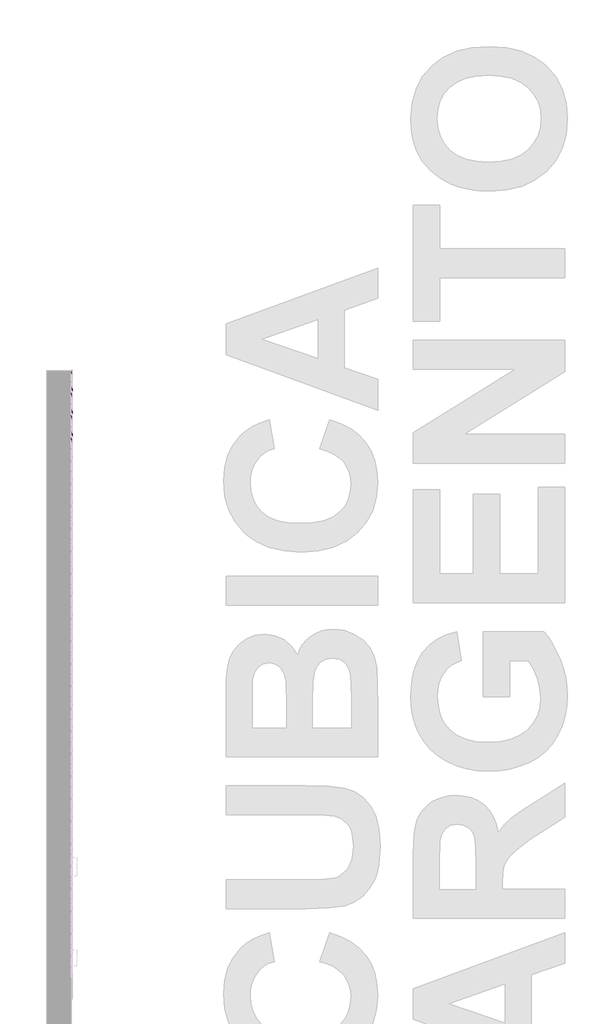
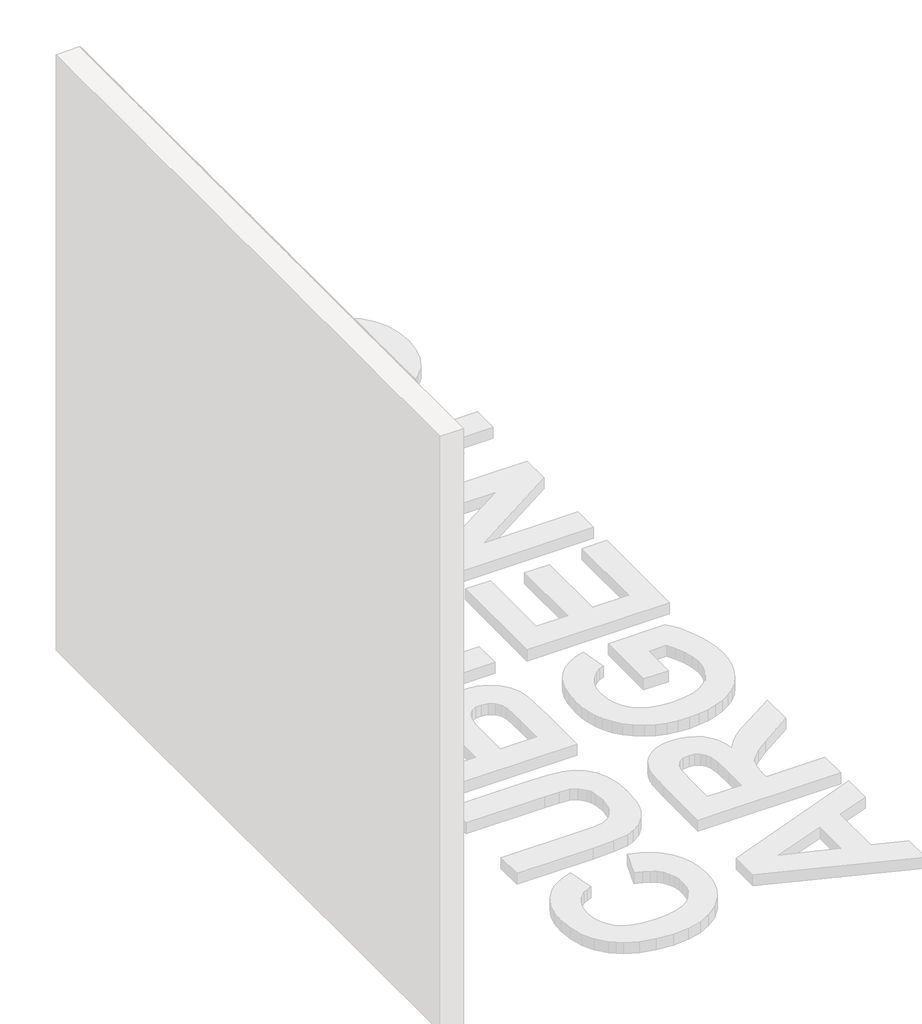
# One storey, part 23 of 121: 143 proxies.
"""IFC4 building model written with IfcOpenShell, lengths in millimetres."""

from ifc_helpers import new_model, si_unit, origin, place, context, project, spatial, transform, mapped, element, save
from components import generic_models_b2b2c5c1, generic_models_9bf73f6f, generic_models_5d175859, generic_models_336a48c1, generic_models_3c04e8e5, generic_models_61989c10, generic_models_7dea52c4

model = new_model("IFC4")

# Units and contexts
model_context = context("Model", 3, world=origin())
ifc_project = project(units=[si_unit("LENGTHUNIT", "METRE", prefix="MILLI")], contexts=[model_context])

# Site, building, storey
site = spatial("IfcSite", under=ifc_project)
building = spatial("IfcBuilding", under=site)
storey = spatial("IfcBuildingStorey", under=building, Name="PORTOBELLO - SHOWROOM", Elevation=0.0)

# Proxies
placement = place(None, origin())
generic_models_shape = generic_models_b2b2c5c1(model_context)
element("IfcBuildingElementProxy", 1, Name="PBSHOP - CUBICA ARGENTO 4,8X8,3 : CUBICA ARGENTO - POSIÇÃO 01", ObjectType="PBSHOP - CUBICA ARGENTO 4,8X8,3 : CUBICA ARGENTO - POSIÇÃO 01", at=placement, inside=storey, context=model_context, shape_type="MappedRepresentation", body=[
    mapped(generic_models_shape, transform((150369.5341846, -3950.7919848, 1302.3763808), x_axis=(0.0, 1.0, 0.0), y_axis=(0.0, 0.0, 1.0), z_axis=(1.0, 0.0, 0.0))),
])
element("IfcBuildingElementProxy", 2, Name="PBSHOP - CUBICA ARGENTO 4,8X8,3 : CUBICA ARGENTO - POSIÇÃO 01", ObjectType="PBSHOP - CUBICA ARGENTO 4,8X8,3 : CUBICA ARGENTO - POSIÇÃO 01", at=placement, inside=storey, context=model_context, shape_type="MappedRepresentation", body=[
    mapped(generic_models_shape, transform((150369.5341846, -3859.9527156, 1302.3763808), x_axis=(0.0, 1.0, 0.0), y_axis=(0.0, 0.0, 1.0), z_axis=(1.0, 0.0, 0.0))),
])
element("IfcBuildingElementProxy", 3, Name="PBSHOP - CUBICA ARGENTO 4,8X8,3 : CUBICA ARGENTO - POSIÇÃO 01", ObjectType="PBSHOP - CUBICA ARGENTO 4,8X8,3 : CUBICA ARGENTO - POSIÇÃO 01", at=placement, inside=storey, context=model_context, shape_type="MappedRepresentation", body=[
    mapped(generic_models_shape, transform((150369.5341846, -3769.1134464, 1302.3763808), x_axis=(0.0, 1.0, 0.0), y_axis=(0.0, 0.0, 1.0), z_axis=(1.0, 0.0, 0.0))),
])
element("IfcBuildingElementProxy", 4, Name="PBSHOP - CUBICA ARGENTO 4,8X8,3 : CUBICA ARGENTO - POSIÇÃO 01", ObjectType="PBSHOP - CUBICA ARGENTO 4,8X8,3 : CUBICA ARGENTO - POSIÇÃO 01", at=placement, inside=storey, context=model_context, shape_type="MappedRepresentation", body=[
    mapped(generic_models_shape, transform((150369.5341846, -3678.2741771, 1302.3763808), x_axis=(0.0, 1.0, 0.0), y_axis=(0.0, 0.0, 1.0), z_axis=(1.0, 0.0, 0.0))),
])
element("IfcBuildingElementProxy", 5, Name="PBSHOP - CUBICA ARGENTO 4,8X8,3 : CUBICA ARGENTO - POSIÇÃO 01", ObjectType="PBSHOP - CUBICA ARGENTO 4,8X8,3 : CUBICA ARGENTO - POSIÇÃO 01", at=placement, inside=storey, context=model_context, shape_type="MappedRepresentation", body=[
    mapped(generic_models_shape, transform((150369.5341846, -3996.2116195, 1381.3110192), x_axis=(0.0, 1.0, 0.0), y_axis=(0.0, 0.0, 1.0), z_axis=(1.0, 0.0, 0.0))),
])
element("IfcBuildingElementProxy", 6, Name="PBSHOP - CUBICA ARGENTO 4,8X8,3 : CUBICA ARGENTO - POSIÇÃO 01", ObjectType="PBSHOP - CUBICA ARGENTO 4,8X8,3 : CUBICA ARGENTO - POSIÇÃO 01", at=placement, inside=storey, context=model_context, shape_type="MappedRepresentation", body=[
    mapped(generic_models_shape, transform((150369.5341846, -3905.3723502, 1381.3110192), x_axis=(0.0, 1.0, 0.0), y_axis=(0.0, 0.0, 1.0), z_axis=(1.0, 0.0, 0.0))),
])
element("IfcBuildingElementProxy", 7, Name="PBSHOP - CUBICA ARGENTO 4,8X8,3 : CUBICA ARGENTO - POSIÇÃO 01", ObjectType="PBSHOP - CUBICA ARGENTO 4,8X8,3 : CUBICA ARGENTO - POSIÇÃO 01", at=placement, inside=storey, context=model_context, shape_type="MappedRepresentation", body=[
    mapped(generic_models_shape, transform((150369.5341846, -3814.533081, 1381.3110192), x_axis=(0.0, 1.0, 0.0), y_axis=(0.0, 0.0, 1.0), z_axis=(1.0, 0.0, 0.0))),
])
element("IfcBuildingElementProxy", 8, Name="PBSHOP - CUBICA ARGENTO 4,8X8,3 : CUBICA ARGENTO - POSIÇÃO 01", ObjectType="PBSHOP - CUBICA ARGENTO 4,8X8,3 : CUBICA ARGENTO - POSIÇÃO 01", at=placement, inside=storey, context=model_context, shape_type="MappedRepresentation", body=[
    mapped(generic_models_shape, transform((150369.5341846, -3723.6938117, 1381.3110192), x_axis=(0.0, 1.0, 0.0), y_axis=(0.0, 0.0, 1.0), z_axis=(1.0, 0.0, 0.0))),
])
element("IfcBuildingElementProxy", 9, Name="PBSHOP - CUBICA ARGENTO 4,8X8,3 : CUBICA ARGENTO - POSIÇÃO 01", ObjectType="PBSHOP - CUBICA ARGENTO 4,8X8,3 : CUBICA ARGENTO - POSIÇÃO 01", at=placement, inside=storey, context=model_context, shape_type="MappedRepresentation", body=[
    mapped(generic_models_shape, transform((150369.5341846, -3632.8545425, 1381.3110192), x_axis=(0.0, 1.0, 0.0), y_axis=(0.0, 0.0, 1.0), z_axis=(1.0, 0.0, 0.0))),
])
element("IfcBuildingElementProxy", 10, Name="PBSHOP - CUBICA ARGENTO 4,8X8,3 : CUBICA ARGENTO - POSIÇÃO 01", ObjectType="PBSHOP - CUBICA ARGENTO 4,8X8,3 : CUBICA ARGENTO - POSIÇÃO 01", at=placement, inside=storey, context=model_context, shape_type="MappedRepresentation", body=[
    mapped(generic_models_shape, transform((150369.5341846, -3950.7919848, 1460.2456575), x_axis=(0.0, 1.0, 0.0), y_axis=(0.0, 0.0, 1.0), z_axis=(1.0, 0.0, 0.0))),
])
element("IfcBuildingElementProxy", 11, Name="PBSHOP - CUBICA ARGENTO 4,8X8,3 : CUBICA ARGENTO - POSIÇÃO 01", ObjectType="PBSHOP - CUBICA ARGENTO 4,8X8,3 : CUBICA ARGENTO - POSIÇÃO 01", at=placement, inside=storey, context=model_context, shape_type="MappedRepresentation", body=[
    mapped(generic_models_shape, transform((150369.5341846, -3859.9527156, 1460.2456575), x_axis=(0.0, 1.0, 0.0), y_axis=(0.0, 0.0, 1.0), z_axis=(1.0, 0.0, 0.0))),
])
element("IfcBuildingElementProxy", 12, Name="PBSHOP - CUBICA ARGENTO 4,8X8,3 : CUBICA ARGENTO - POSIÇÃO 01", ObjectType="PBSHOP - CUBICA ARGENTO 4,8X8,3 : CUBICA ARGENTO - POSIÇÃO 01", at=placement, inside=storey, context=model_context, shape_type="MappedRepresentation", body=[
    mapped(generic_models_shape, transform((150369.5341846, -3769.1134464, 1460.2456575), x_axis=(0.0, 1.0, 0.0), y_axis=(0.0, 0.0, 1.0), z_axis=(1.0, 0.0, 0.0))),
])
element("IfcBuildingElementProxy", 13, Name="PBSHOP - CUBICA ARGENTO 4,8X8,3 : CUBICA ARGENTO - POSIÇÃO 01", ObjectType="PBSHOP - CUBICA ARGENTO 4,8X8,3 : CUBICA ARGENTO - POSIÇÃO 01", at=placement, inside=storey, context=model_context, shape_type="MappedRepresentation", body=[
    mapped(generic_models_shape, transform((150369.5341846, -3678.2741771, 1460.2456575), x_axis=(0.0, 1.0, 0.0), y_axis=(0.0, 0.0, 1.0), z_axis=(1.0, 0.0, 0.0))),
])
element("IfcBuildingElementProxy", 14, Name="PBSHOP - CUBICA ARGENTO 4,8X8,3 : CUBICA ARGENTO - POSIÇÃO 01", ObjectType="PBSHOP - CUBICA ARGENTO 4,8X8,3 : CUBICA ARGENTO - POSIÇÃO 01", at=placement, inside=storey, context=model_context, shape_type="MappedRepresentation", body=[
    mapped(generic_models_shape, transform((150369.5341846, -3996.2116195, 1539.1802959), x_axis=(0.0, 1.0, 0.0), y_axis=(0.0, 0.0, 1.0), z_axis=(1.0, 0.0, 0.0))),
])
element("IfcBuildingElementProxy", 15, Name="PBSHOP - CUBICA ARGENTO 4,8X8,3 : CUBICA ARGENTO - POSIÇÃO 01", ObjectType="PBSHOP - CUBICA ARGENTO 4,8X8,3 : CUBICA ARGENTO - POSIÇÃO 01", at=placement, inside=storey, context=model_context, shape_type="MappedRepresentation", body=[
    mapped(generic_models_shape, transform((150369.5341846, -3905.3723502, 1539.1802959), x_axis=(0.0, 1.0, 0.0), y_axis=(0.0, 0.0, 1.0), z_axis=(1.0, 0.0, 0.0))),
])
element("IfcBuildingElementProxy", 16, Name="PBSHOP - CUBICA ARGENTO 4,8X8,3 : CUBICA ARGENTO - POSIÇÃO 01", ObjectType="PBSHOP - CUBICA ARGENTO 4,8X8,3 : CUBICA ARGENTO - POSIÇÃO 01", at=placement, inside=storey, context=model_context, shape_type="MappedRepresentation", body=[
    mapped(generic_models_shape, transform((150369.5341846, -3814.533081, 1539.1802959), x_axis=(0.0, 1.0, 0.0), y_axis=(0.0, 0.0, 1.0), z_axis=(1.0, 0.0, 0.0))),
])
element("IfcBuildingElementProxy", 17, Name="PBSHOP - CUBICA ARGENTO 4,8X8,3 : CUBICA ARGENTO - POSIÇÃO 01", ObjectType="PBSHOP - CUBICA ARGENTO 4,8X8,3 : CUBICA ARGENTO - POSIÇÃO 01", at=placement, inside=storey, context=model_context, shape_type="MappedRepresentation", body=[
    mapped(generic_models_shape, transform((150369.5341846, -3723.6938117, 1539.1802959), x_axis=(0.0, 1.0, 0.0), y_axis=(0.0, 0.0, 1.0), z_axis=(1.0, 0.0, 0.0))),
])
element("IfcBuildingElementProxy", 18, Name="PBSHOP - CUBICA ARGENTO 4,8X8,3 : CUBICA ARGENTO - POSIÇÃO 01", ObjectType="PBSHOP - CUBICA ARGENTO 4,8X8,3 : CUBICA ARGENTO - POSIÇÃO 01", at=placement, inside=storey, context=model_context, shape_type="MappedRepresentation", body=[
    mapped(generic_models_shape, transform((150369.5341846, -3632.8545425, 1539.1802959), x_axis=(0.0, 1.0, 0.0), y_axis=(0.0, 0.0, 1.0), z_axis=(1.0, 0.0, 0.0))),
])
element("IfcBuildingElementProxy", 19, Name="PBSHOP - CUBICA ARGENTO 4,8X8,3 : CUBICA ARGENTO - POSIÇÃO 01", ObjectType="PBSHOP - CUBICA ARGENTO 4,8X8,3 : CUBICA ARGENTO - POSIÇÃO 01", at=placement, inside=storey, context=model_context, shape_type="MappedRepresentation", body=[
    mapped(generic_models_shape, transform((150369.5341846, -3950.7919848, 1618.1149343), x_axis=(0.0, 1.0, 0.0), y_axis=(0.0, 0.0, 1.0), z_axis=(1.0, 0.0, 0.0))),
])
element("IfcBuildingElementProxy", 20, Name="PBSHOP - CUBICA ARGENTO 4,8X8,3 : CUBICA ARGENTO - POSIÇÃO 01", ObjectType="PBSHOP - CUBICA ARGENTO 4,8X8,3 : CUBICA ARGENTO - POSIÇÃO 01", at=placement, inside=storey, context=model_context, shape_type="MappedRepresentation", body=[
    mapped(generic_models_shape, transform((150369.5341846, -3859.9527156, 1618.1149343), x_axis=(0.0, 1.0, 0.0), y_axis=(0.0, 0.0, 1.0), z_axis=(1.0, 0.0, 0.0))),
])
element("IfcBuildingElementProxy", 21, Name="PBSHOP - CUBICA ARGENTO 4,8X8,3 : CUBICA ARGENTO - POSIÇÃO 01", ObjectType="PBSHOP - CUBICA ARGENTO 4,8X8,3 : CUBICA ARGENTO - POSIÇÃO 01", at=placement, inside=storey, context=model_context, shape_type="MappedRepresentation", body=[
    mapped(generic_models_shape, transform((150369.5341846, -3769.1134464, 1618.1149343), x_axis=(0.0, 1.0, 0.0), y_axis=(0.0, 0.0, 1.0), z_axis=(1.0, 0.0, 0.0))),
])
element("IfcBuildingElementProxy", 22, Name="PBSHOP - CUBICA ARGENTO 4,8X8,3 : CUBICA ARGENTO - POSIÇÃO 01", ObjectType="PBSHOP - CUBICA ARGENTO 4,8X8,3 : CUBICA ARGENTO - POSIÇÃO 01", at=placement, inside=storey, context=model_context, shape_type="MappedRepresentation", body=[
    mapped(generic_models_shape, transform((150369.5341846, -3678.2741771, 1618.1149343), x_axis=(0.0, 1.0, 0.0), y_axis=(0.0, 0.0, 1.0), z_axis=(1.0, 0.0, 0.0))),
])
element("IfcBuildingElementProxy", 23, Name="PBSHOP - CUBICA ARGENTO 4,8X8,3 : CUBICA ARGENTO - POSIÇÃO 01", ObjectType="PBSHOP - CUBICA ARGENTO 4,8X8,3 : CUBICA ARGENTO - POSIÇÃO 01", at=placement, inside=storey, context=model_context, shape_type="MappedRepresentation", body=[
    mapped(generic_models_shape, transform((150369.5341846, -3996.2116195, 1697.0495727), x_axis=(0.0, 1.0, 0.0), y_axis=(0.0, 0.0, 1.0), z_axis=(1.0, 0.0, 0.0))),
])
element("IfcBuildingElementProxy", 24, Name="PBSHOP - CUBICA ARGENTO 4,8X8,3 : CUBICA ARGENTO - POSIÇÃO 01", ObjectType="PBSHOP - CUBICA ARGENTO 4,8X8,3 : CUBICA ARGENTO - POSIÇÃO 01", at=placement, inside=storey, context=model_context, shape_type="MappedRepresentation", body=[
    mapped(generic_models_shape, transform((150369.5341846, -3905.3723502, 1697.0495727), x_axis=(0.0, 1.0, 0.0), y_axis=(0.0, 0.0, 1.0), z_axis=(1.0, 0.0, 0.0))),
])
element("IfcBuildingElementProxy", 25, Name="PBSHOP - CUBICA ARGENTO 4,8X8,3 : CUBICA ARGENTO - POSIÇÃO 01", ObjectType="PBSHOP - CUBICA ARGENTO 4,8X8,3 : CUBICA ARGENTO - POSIÇÃO 01", at=placement, inside=storey, context=model_context, shape_type="MappedRepresentation", body=[
    mapped(generic_models_shape, transform((150369.5341846, -3814.533081, 1697.0495727), x_axis=(0.0, 1.0, 0.0), y_axis=(0.0, 0.0, 1.0), z_axis=(1.0, 0.0, 0.0))),
])
element("IfcBuildingElementProxy", 26, Name="PBSHOP - CUBICA ARGENTO 4,8X8,3 : CUBICA ARGENTO - POSIÇÃO 01", ObjectType="PBSHOP - CUBICA ARGENTO 4,8X8,3 : CUBICA ARGENTO - POSIÇÃO 01", at=placement, inside=storey, context=model_context, shape_type="MappedRepresentation", body=[
    mapped(generic_models_shape, transform((150369.5341846, -3723.6938117, 1697.0495727), x_axis=(0.0, 1.0, 0.0), y_axis=(0.0, 0.0, 1.0), z_axis=(1.0, 0.0, 0.0))),
])
element("IfcBuildingElementProxy", 27, Name="PBSHOP - CUBICA ARGENTO 4,8X8,3 : CUBICA ARGENTO - POSIÇÃO 01", ObjectType="PBSHOP - CUBICA ARGENTO 4,8X8,3 : CUBICA ARGENTO - POSIÇÃO 01", at=placement, inside=storey, context=model_context, shape_type="MappedRepresentation", body=[
    mapped(generic_models_shape, transform((150369.5341846, -3632.8545425, 1697.0495727), x_axis=(0.0, 1.0, 0.0), y_axis=(0.0, 0.0, 1.0), z_axis=(1.0, 0.0, 0.0))),
])
element("IfcBuildingElementProxy", 28, Name="PBSHOP - CUBICA ARGENTO 4,8X8,3 : CUBICA ARGENTO - POSIÇÃO 01", ObjectType="PBSHOP - CUBICA ARGENTO 4,8X8,3 : CUBICA ARGENTO - POSIÇÃO 01", at=placement, inside=storey, context=model_context, shape_type="MappedRepresentation", body=[
    mapped(generic_models_shape, transform((150369.5341846, -3950.7919848, 1775.984211), x_axis=(0.0, 1.0, 0.0), y_axis=(0.0, 0.0, 1.0), z_axis=(1.0, 0.0, 0.0))),
])
element("IfcBuildingElementProxy", 29, Name="PBSHOP - CUBICA ARGENTO 4,8X8,3 : CUBICA ARGENTO - POSIÇÃO 01", ObjectType="PBSHOP - CUBICA ARGENTO 4,8X8,3 : CUBICA ARGENTO - POSIÇÃO 01", at=placement, inside=storey, context=model_context, shape_type="MappedRepresentation", body=[
    mapped(generic_models_shape, transform((150369.5341846, -3859.9527156, 1775.984211), x_axis=(0.0, 1.0, 0.0), y_axis=(0.0, 0.0, 1.0), z_axis=(1.0, 0.0, 0.0))),
])
element("IfcBuildingElementProxy", 30, Name="PBSHOP - CUBICA ARGENTO 4,8X8,3 : CUBICA ARGENTO - POSIÇÃO 01", ObjectType="PBSHOP - CUBICA ARGENTO 4,8X8,3 : CUBICA ARGENTO - POSIÇÃO 01", at=placement, inside=storey, context=model_context, shape_type="MappedRepresentation", body=[
    mapped(generic_models_shape, transform((150369.5341846, -3769.1134464, 1775.984211), x_axis=(0.0, 1.0, 0.0), y_axis=(0.0, 0.0, 1.0), z_axis=(1.0, 0.0, 0.0))),
])
element("IfcBuildingElementProxy", 31, Name="PBSHOP - CUBICA ARGENTO 4,8X8,3 : CUBICA ARGENTO - POSIÇÃO 01", ObjectType="PBSHOP - CUBICA ARGENTO 4,8X8,3 : CUBICA ARGENTO - POSIÇÃO 01", at=placement, inside=storey, context=model_context, shape_type="MappedRepresentation", body=[
    mapped(generic_models_shape, transform((150369.5341846, -3678.2741771, 1775.984211), x_axis=(0.0, 1.0, 0.0), y_axis=(0.0, 0.0, 1.0), z_axis=(1.0, 0.0, 0.0))),
])
element("IfcBuildingElementProxy", 32, Name="PBSHOP - CUBICA ARGENTO 4,8X8,3 : CUBICA ARGENTO - POSIÇÃO 01", ObjectType="PBSHOP - CUBICA ARGENTO 4,8X8,3 : CUBICA ARGENTO - POSIÇÃO 01", at=placement, inside=storey, context=model_context, shape_type="MappedRepresentation", body=[
    mapped(generic_models_shape, transform((150369.5341846, -3996.2116195, 1854.9188494), x_axis=(0.0, 1.0, 0.0), y_axis=(0.0, 0.0, 1.0), z_axis=(1.0, 0.0, 0.0))),
])
element("IfcBuildingElementProxy", 33, Name="PBSHOP - CUBICA ARGENTO 4,8X8,3 : CUBICA ARGENTO - POSIÇÃO 01", ObjectType="PBSHOP - CUBICA ARGENTO 4,8X8,3 : CUBICA ARGENTO - POSIÇÃO 01", at=placement, inside=storey, context=model_context, shape_type="MappedRepresentation", body=[
    mapped(generic_models_shape, transform((150369.5341846, -3905.3723502, 1854.9188494), x_axis=(0.0, 1.0, 0.0), y_axis=(0.0, 0.0, 1.0), z_axis=(1.0, 0.0, 0.0))),
])
element("IfcBuildingElementProxy", 34, Name="PBSHOP - CUBICA ARGENTO 4,8X8,3 : CUBICA ARGENTO - POSIÇÃO 01", ObjectType="PBSHOP - CUBICA ARGENTO 4,8X8,3 : CUBICA ARGENTO - POSIÇÃO 01", at=placement, inside=storey, context=model_context, shape_type="MappedRepresentation", body=[
    mapped(generic_models_shape, transform((150369.5341846, -3814.533081, 1854.9188494), x_axis=(0.0, 1.0, 0.0), y_axis=(0.0, 0.0, 1.0), z_axis=(1.0, 0.0, 0.0))),
])
element("IfcBuildingElementProxy", 35, Name="PBSHOP - CUBICA ARGENTO 4,8X8,3 : CUBICA ARGENTO - POSIÇÃO 01", ObjectType="PBSHOP - CUBICA ARGENTO 4,8X8,3 : CUBICA ARGENTO - POSIÇÃO 01", at=placement, inside=storey, context=model_context, shape_type="MappedRepresentation", body=[
    mapped(generic_models_shape, transform((150369.5341846, -3723.6938117, 1854.9188494), x_axis=(0.0, 1.0, 0.0), y_axis=(0.0, 0.0, 1.0), z_axis=(1.0, 0.0, 0.0))),
])
element("IfcBuildingElementProxy", 36, Name="PBSHOP - CUBICA ARGENTO 4,8X8,3 : CUBICA ARGENTO - POSIÇÃO 01", ObjectType="PBSHOP - CUBICA ARGENTO 4,8X8,3 : CUBICA ARGENTO - POSIÇÃO 01", at=placement, inside=storey, context=model_context, shape_type="MappedRepresentation", body=[
    mapped(generic_models_shape, transform((150369.5341846, -3632.8545425, 1854.9188494), x_axis=(0.0, 1.0, 0.0), y_axis=(0.0, 0.0, 1.0), z_axis=(1.0, 0.0, 0.0))),
])
element("IfcBuildingElementProxy", 37, Name="PBSHOP - CUBICA ARGENTO 4,8X8,3 : CUBICA ARGENTO - POSIÇÃO 01", ObjectType="PBSHOP - CUBICA ARGENTO 4,8X8,3 : CUBICA ARGENTO - POSIÇÃO 01", at=placement, inside=storey, context=model_context, shape_type="MappedRepresentation", body=[
    mapped(generic_models_shape, transform((150369.5341846, -3950.7919848, 1933.8534878), x_axis=(0.0, 1.0, 0.0), y_axis=(0.0, 0.0, 1.0), z_axis=(1.0, 0.0, 0.0))),
])
element("IfcBuildingElementProxy", 38, Name="PBSHOP - CUBICA ARGENTO 4,8X8,3 : CUBICA ARGENTO - POSIÇÃO 01", ObjectType="PBSHOP - CUBICA ARGENTO 4,8X8,3 : CUBICA ARGENTO - POSIÇÃO 01", at=placement, inside=storey, context=model_context, shape_type="MappedRepresentation", body=[
    mapped(generic_models_shape, transform((150369.5341846, -3859.9527156, 1933.8534878), x_axis=(0.0, 1.0, 0.0), y_axis=(0.0, 0.0, 1.0), z_axis=(1.0, 0.0, 0.0))),
])
element("IfcBuildingElementProxy", 39, Name="PBSHOP - CUBICA ARGENTO 4,8X8,3 : CUBICA ARGENTO - POSIÇÃO 01", ObjectType="PBSHOP - CUBICA ARGENTO 4,8X8,3 : CUBICA ARGENTO - POSIÇÃO 01", at=placement, inside=storey, context=model_context, shape_type="MappedRepresentation", body=[
    mapped(generic_models_shape, transform((150369.5341846, -3769.1134464, 1933.8534878), x_axis=(0.0, 1.0, 0.0), y_axis=(0.0, 0.0, 1.0), z_axis=(1.0, 0.0, 0.0))),
])
element("IfcBuildingElementProxy", 40, Name="PBSHOP - CUBICA ARGENTO 4,8X8,3 : CUBICA ARGENTO - POSIÇÃO 01", ObjectType="PBSHOP - CUBICA ARGENTO 4,8X8,3 : CUBICA ARGENTO - POSIÇÃO 01", at=placement, inside=storey, context=model_context, shape_type="MappedRepresentation", body=[
    mapped(generic_models_shape, transform((150369.5341846, -3678.2741771, 1933.8534878), x_axis=(0.0, 1.0, 0.0), y_axis=(0.0, 0.0, 1.0), z_axis=(1.0, 0.0, 0.0))),
])
element("IfcBuildingElementProxy", 41, Name="PBSHOP - CUBICA ARGENTO 4,8X8,3 : CUBICA ARGENTO - POSIÇÃO 01", ObjectType="PBSHOP - CUBICA ARGENTO 4,8X8,3 : CUBICA ARGENTO - POSIÇÃO 01", at=placement, inside=storey, context=model_context, shape_type="MappedRepresentation", body=[
    mapped(generic_models_shape, transform((150369.5341846, -3996.2116195, 2012.7881262), x_axis=(0.0, 1.0, 0.0), y_axis=(0.0, 0.0, 1.0), z_axis=(1.0, 0.0, 0.0))),
])
element("IfcBuildingElementProxy", 42, Name="PBSHOP - CUBICA ARGENTO 4,8X8,3 : CUBICA ARGENTO - POSIÇÃO 01", ObjectType="PBSHOP - CUBICA ARGENTO 4,8X8,3 : CUBICA ARGENTO - POSIÇÃO 01", at=placement, inside=storey, context=model_context, shape_type="MappedRepresentation", body=[
    mapped(generic_models_shape, transform((150369.5341846, -3905.3723502, 2012.7881262), x_axis=(0.0, 1.0, 0.0), y_axis=(0.0, 0.0, 1.0), z_axis=(1.0, 0.0, 0.0))),
])
generic_models_2_shape = generic_models_9bf73f6f(model_context)
element("IfcBuildingElementProxy", 43, Name="PBSHOP - CUBICA ARGENTO 4,8X8,3 : CUBICA ARGENTO - POSIÇÃO 03", ObjectType="PBSHOP - CUBICA ARGENTO 4,8X8,3 : CUBICA ARGENTO - POSIÇÃO 03", at=placement, inside=storey, context=model_context, shape_type="MappedRepresentation", body=[
    mapped(generic_models_2_shape, transform((150369.5341846, -3837.2407391, 1183.9332128), x_axis=(0.0, 1.0, 0.0), y_axis=(0.0, 0.0, 1.0), z_axis=(1.0, 0.0, 0.0))),
])
element("IfcBuildingElementProxy", 44, Name="PBSHOP - CUBICA ARGENTO 4,8X8,3 : CUBICA ARGENTO - POSIÇÃO 03", ObjectType="PBSHOP - CUBICA ARGENTO 4,8X8,3 : CUBICA ARGENTO - POSIÇÃO 03", at=placement, inside=storey, context=model_context, shape_type="MappedRepresentation", body=[
    mapped(generic_models_2_shape, transform((150369.5341846, -3746.4014699, 1183.9332128), x_axis=(0.0, 1.0, 0.0), y_axis=(0.0, 0.0, 1.0), z_axis=(1.0, 0.0, 0.0))),
])
element("IfcBuildingElementProxy", 45, Name="PBSHOP - CUBICA ARGENTO 4,8X8,3 : CUBICA ARGENTO - POSIÇÃO 03", ObjectType="PBSHOP - CUBICA ARGENTO 4,8X8,3 : CUBICA ARGENTO - POSIÇÃO 03", at=placement, inside=storey, context=model_context, shape_type="MappedRepresentation", body=[
    mapped(generic_models_2_shape, transform((150369.5341846, -3655.5622006, 1183.9332128), x_axis=(0.0, 1.0, 0.0), y_axis=(0.0, 0.0, 1.0), z_axis=(1.0, 0.0, 0.0))),
])
element("IfcBuildingElementProxy", 46, Name="PBSHOP - CUBICA ARGENTO 4,8X8,3 : CUBICA ARGENTO - POSIÇÃO 03", ObjectType="PBSHOP - CUBICA ARGENTO 4,8X8,3 : CUBICA ARGENTO - POSIÇÃO 03", at=placement, inside=storey, context=model_context, shape_type="MappedRepresentation", body=[
    mapped(generic_models_2_shape, transform((150369.5341846, -3973.499643, 1262.8678512), x_axis=(0.0, 1.0, 0.0), y_axis=(0.0, 0.0, 1.0), z_axis=(1.0, 0.0, 0.0))),
])
element("IfcBuildingElementProxy", 47, Name="PBSHOP - CUBICA ARGENTO 4,8X8,3 : CUBICA ARGENTO - POSIÇÃO 03", ObjectType="PBSHOP - CUBICA ARGENTO 4,8X8,3 : CUBICA ARGENTO - POSIÇÃO 03", at=placement, inside=storey, context=model_context, shape_type="MappedRepresentation", body=[
    mapped(generic_models_2_shape, transform((150369.5341846, -3882.6603737, 1262.8678512), x_axis=(0.0, 1.0, 0.0), y_axis=(0.0, 0.0, 1.0), z_axis=(1.0, 0.0, 0.0))),
])
element("IfcBuildingElementProxy", 48, Name="PBSHOP - CUBICA ARGENTO 4,8X8,3 : CUBICA ARGENTO - POSIÇÃO 03", ObjectType="PBSHOP - CUBICA ARGENTO 4,8X8,3 : CUBICA ARGENTO - POSIÇÃO 03", at=placement, inside=storey, context=model_context, shape_type="MappedRepresentation", body=[
    mapped(generic_models_2_shape, transform((150369.5341846, -3791.8211045, 1262.8678512), x_axis=(0.0, 1.0, 0.0), y_axis=(0.0, 0.0, 1.0), z_axis=(1.0, 0.0, 0.0))),
])
element("IfcBuildingElementProxy", 49, Name="PBSHOP - CUBICA ARGENTO 4,8X8,3 : CUBICA ARGENTO - POSIÇÃO 03", ObjectType="PBSHOP - CUBICA ARGENTO 4,8X8,3 : CUBICA ARGENTO - POSIÇÃO 03", at=placement, inside=storey, context=model_context, shape_type="MappedRepresentation", body=[
    mapped(generic_models_2_shape, transform((150369.5341846, -3700.9818353, 1262.8678512), x_axis=(0.0, 1.0, 0.0), y_axis=(0.0, 0.0, 1.0), z_axis=(1.0, 0.0, 0.0))),
])
element("IfcBuildingElementProxy", 50, Name="PBSHOP - CUBICA ARGENTO 4,8X8,3 : CUBICA ARGENTO - POSIÇÃO 03", ObjectType="PBSHOP - CUBICA ARGENTO 4,8X8,3 : CUBICA ARGENTO - POSIÇÃO 03", at=placement, inside=storey, context=model_context, shape_type="MappedRepresentation", body=[
    mapped(generic_models_2_shape, transform((150369.5341846, -3928.0800084, 1341.8024896), x_axis=(0.0, 1.0, 0.0), y_axis=(0.0, 0.0, 1.0), z_axis=(1.0, 0.0, 0.0))),
])
element("IfcBuildingElementProxy", 51, Name="PBSHOP - CUBICA ARGENTO 4,8X8,3 : CUBICA ARGENTO - POSIÇÃO 03", ObjectType="PBSHOP - CUBICA ARGENTO 4,8X8,3 : CUBICA ARGENTO - POSIÇÃO 03", at=placement, inside=storey, context=model_context, shape_type="MappedRepresentation", body=[
    mapped(generic_models_2_shape, transform((150369.5341846, -3837.2407391, 1341.8024896), x_axis=(0.0, 1.0, 0.0), y_axis=(0.0, 0.0, 1.0), z_axis=(1.0, 0.0, 0.0))),
])
element("IfcBuildingElementProxy", 52, Name="PBSHOP - CUBICA ARGENTO 4,8X8,3 : CUBICA ARGENTO - POSIÇÃO 03", ObjectType="PBSHOP - CUBICA ARGENTO 4,8X8,3 : CUBICA ARGENTO - POSIÇÃO 03", at=placement, inside=storey, context=model_context, shape_type="MappedRepresentation", body=[
    mapped(generic_models_2_shape, transform((150369.5341846, -3746.4014699, 1341.8024896), x_axis=(0.0, 1.0, 0.0), y_axis=(0.0, 0.0, 1.0), z_axis=(1.0, 0.0, 0.0))),
])
element("IfcBuildingElementProxy", 53, Name="PBSHOP - CUBICA ARGENTO 4,8X8,3 : CUBICA ARGENTO - POSIÇÃO 03", ObjectType="PBSHOP - CUBICA ARGENTO 4,8X8,3 : CUBICA ARGENTO - POSIÇÃO 03", at=placement, inside=storey, context=model_context, shape_type="MappedRepresentation", body=[
    mapped(generic_models_2_shape, transform((150369.5341846, -3655.5622006, 1341.8024896), x_axis=(0.0, 1.0, 0.0), y_axis=(0.0, 0.0, 1.0), z_axis=(1.0, 0.0, 0.0))),
])
element("IfcBuildingElementProxy", 54, Name="PBSHOP - CUBICA ARGENTO 4,8X8,3 : CUBICA ARGENTO - POSIÇÃO 03", ObjectType="PBSHOP - CUBICA ARGENTO 4,8X8,3 : CUBICA ARGENTO - POSIÇÃO 03", at=placement, inside=storey, context=model_context, shape_type="MappedRepresentation", body=[
    mapped(generic_models_2_shape, transform((150369.5341846, -3973.499643, 1420.7371279), x_axis=(0.0, 1.0, 0.0), y_axis=(0.0, 0.0, 1.0), z_axis=(1.0, 0.0, 0.0))),
])
element("IfcBuildingElementProxy", 55, Name="PBSHOP - CUBICA ARGENTO 4,8X8,3 : CUBICA ARGENTO - POSIÇÃO 03", ObjectType="PBSHOP - CUBICA ARGENTO 4,8X8,3 : CUBICA ARGENTO - POSIÇÃO 03", at=placement, inside=storey, context=model_context, shape_type="MappedRepresentation", body=[
    mapped(generic_models_2_shape, transform((150369.5341846, -3882.6603737, 1420.7371279), x_axis=(0.0, 1.0, 0.0), y_axis=(0.0, 0.0, 1.0), z_axis=(1.0, 0.0, 0.0))),
])
element("IfcBuildingElementProxy", 56, Name="PBSHOP - CUBICA ARGENTO 4,8X8,3 : CUBICA ARGENTO - POSIÇÃO 03", ObjectType="PBSHOP - CUBICA ARGENTO 4,8X8,3 : CUBICA ARGENTO - POSIÇÃO 03", at=placement, inside=storey, context=model_context, shape_type="MappedRepresentation", body=[
    mapped(generic_models_2_shape, transform((150369.5341846, -3791.8211045, 1420.7371279), x_axis=(0.0, 1.0, 0.0), y_axis=(0.0, 0.0, 1.0), z_axis=(1.0, 0.0, 0.0))),
])
element("IfcBuildingElementProxy", 57, Name="PBSHOP - CUBICA ARGENTO 4,8X8,3 : CUBICA ARGENTO - POSIÇÃO 03", ObjectType="PBSHOP - CUBICA ARGENTO 4,8X8,3 : CUBICA ARGENTO - POSIÇÃO 03", at=placement, inside=storey, context=model_context, shape_type="MappedRepresentation", body=[
    mapped(generic_models_2_shape, transform((150369.5341846, -3700.9818353, 1420.7371279), x_axis=(0.0, 1.0, 0.0), y_axis=(0.0, 0.0, 1.0), z_axis=(1.0, 0.0, 0.0))),
])
element("IfcBuildingElementProxy", 58, Name="PBSHOP - CUBICA ARGENTO 4,8X8,3 : CUBICA ARGENTO - POSIÇÃO 03", ObjectType="PBSHOP - CUBICA ARGENTO 4,8X8,3 : CUBICA ARGENTO - POSIÇÃO 03", at=placement, inside=storey, context=model_context, shape_type="MappedRepresentation", body=[
    mapped(generic_models_2_shape, transform((150369.5341846, -3928.0800084, 1499.6717663), x_axis=(0.0, 1.0, 0.0), y_axis=(0.0, 0.0, 1.0), z_axis=(1.0, 0.0, 0.0))),
])
element("IfcBuildingElementProxy", 59, Name="PBSHOP - CUBICA ARGENTO 4,8X8,3 : CUBICA ARGENTO - POSIÇÃO 03", ObjectType="PBSHOP - CUBICA ARGENTO 4,8X8,3 : CUBICA ARGENTO - POSIÇÃO 03", at=placement, inside=storey, context=model_context, shape_type="MappedRepresentation", body=[
    mapped(generic_models_2_shape, transform((150369.5341846, -3837.2407391, 1499.6717663), x_axis=(0.0, 1.0, 0.0), y_axis=(0.0, 0.0, 1.0), z_axis=(1.0, 0.0, 0.0))),
])
element("IfcBuildingElementProxy", 60, Name="PBSHOP - CUBICA ARGENTO 4,8X8,3 : CUBICA ARGENTO - POSIÇÃO 03", ObjectType="PBSHOP - CUBICA ARGENTO 4,8X8,3 : CUBICA ARGENTO - POSIÇÃO 03", at=placement, inside=storey, context=model_context, shape_type="MappedRepresentation", body=[
    mapped(generic_models_2_shape, transform((150369.5341846, -3746.4014699, 1499.6717663), x_axis=(0.0, 1.0, 0.0), y_axis=(0.0, 0.0, 1.0), z_axis=(1.0, 0.0, 0.0))),
])
element("IfcBuildingElementProxy", 61, Name="PBSHOP - CUBICA ARGENTO 4,8X8,3 : CUBICA ARGENTO - POSIÇÃO 03", ObjectType="PBSHOP - CUBICA ARGENTO 4,8X8,3 : CUBICA ARGENTO - POSIÇÃO 03", at=placement, inside=storey, context=model_context, shape_type="MappedRepresentation", body=[
    mapped(generic_models_2_shape, transform((150369.5341846, -3655.5622006, 1499.6717663), x_axis=(0.0, 1.0, 0.0), y_axis=(0.0, 0.0, 1.0), z_axis=(1.0, 0.0, 0.0))),
])
element("IfcBuildingElementProxy", 62, Name="PBSHOP - CUBICA ARGENTO 4,8X8,3 : CUBICA ARGENTO - POSIÇÃO 03", ObjectType="PBSHOP - CUBICA ARGENTO 4,8X8,3 : CUBICA ARGENTO - POSIÇÃO 03", at=placement, inside=storey, context=model_context, shape_type="MappedRepresentation", body=[
    mapped(generic_models_2_shape, transform((150369.5341846, -3973.499643, 1578.6064047), x_axis=(0.0, 1.0, 0.0), y_axis=(0.0, 0.0, 1.0), z_axis=(1.0, 0.0, 0.0))),
])
element("IfcBuildingElementProxy", 63, Name="PBSHOP - CUBICA ARGENTO 4,8X8,3 : CUBICA ARGENTO - POSIÇÃO 03", ObjectType="PBSHOP - CUBICA ARGENTO 4,8X8,3 : CUBICA ARGENTO - POSIÇÃO 03", at=placement, inside=storey, context=model_context, shape_type="MappedRepresentation", body=[
    mapped(generic_models_2_shape, transform((150369.5341846, -3882.6603737, 1578.6064047), x_axis=(0.0, 1.0, 0.0), y_axis=(0.0, 0.0, 1.0), z_axis=(1.0, 0.0, 0.0))),
])
element("IfcBuildingElementProxy", 64, Name="PBSHOP - CUBICA ARGENTO 4,8X8,3 : CUBICA ARGENTO - POSIÇÃO 03", ObjectType="PBSHOP - CUBICA ARGENTO 4,8X8,3 : CUBICA ARGENTO - POSIÇÃO 03", at=placement, inside=storey, context=model_context, shape_type="MappedRepresentation", body=[
    mapped(generic_models_2_shape, transform((150369.5341846, -3791.8211045, 1578.6064047), x_axis=(0.0, 1.0, 0.0), y_axis=(0.0, 0.0, 1.0), z_axis=(1.0, 0.0, 0.0))),
])
element("IfcBuildingElementProxy", 65, Name="PBSHOP - CUBICA ARGENTO 4,8X8,3 : CUBICA ARGENTO - POSIÇÃO 03", ObjectType="PBSHOP - CUBICA ARGENTO 4,8X8,3 : CUBICA ARGENTO - POSIÇÃO 03", at=placement, inside=storey, context=model_context, shape_type="MappedRepresentation", body=[
    mapped(generic_models_2_shape, transform((150369.5341846, -3700.9818353, 1578.6064047), x_axis=(0.0, 1.0, 0.0), y_axis=(0.0, 0.0, 1.0), z_axis=(1.0, 0.0, 0.0))),
])
element("IfcBuildingElementProxy", 66, Name="PBSHOP - CUBICA ARGENTO 4,8X8,3 : CUBICA ARGENTO - POSIÇÃO 03", ObjectType="PBSHOP - CUBICA ARGENTO 4,8X8,3 : CUBICA ARGENTO - POSIÇÃO 03", at=placement, inside=storey, context=model_context, shape_type="MappedRepresentation", body=[
    mapped(generic_models_2_shape, transform((150369.5341846, -3928.0800084, 1657.5410431), x_axis=(0.0, 1.0, 0.0), y_axis=(0.0, 0.0, 1.0), z_axis=(1.0, 0.0, 0.0))),
])
element("IfcBuildingElementProxy", 67, Name="PBSHOP - CUBICA ARGENTO 4,8X8,3 : CUBICA ARGENTO - POSIÇÃO 03", ObjectType="PBSHOP - CUBICA ARGENTO 4,8X8,3 : CUBICA ARGENTO - POSIÇÃO 03", at=placement, inside=storey, context=model_context, shape_type="MappedRepresentation", body=[
    mapped(generic_models_2_shape, transform((150369.5341846, -3837.2407391, 1657.5410431), x_axis=(0.0, 1.0, 0.0), y_axis=(0.0, 0.0, 1.0), z_axis=(1.0, 0.0, 0.0))),
])
element("IfcBuildingElementProxy", 68, Name="PBSHOP - CUBICA ARGENTO 4,8X8,3 : CUBICA ARGENTO - POSIÇÃO 03", ObjectType="PBSHOP - CUBICA ARGENTO 4,8X8,3 : CUBICA ARGENTO - POSIÇÃO 03", at=placement, inside=storey, context=model_context, shape_type="MappedRepresentation", body=[
    mapped(generic_models_2_shape, transform((150369.5341846, -3746.4014699, 1657.5410431), x_axis=(0.0, 1.0, 0.0), y_axis=(0.0, 0.0, 1.0), z_axis=(1.0, 0.0, 0.0))),
])
element("IfcBuildingElementProxy", 69, Name="PBSHOP - CUBICA ARGENTO 4,8X8,3 : CUBICA ARGENTO - POSIÇÃO 03", ObjectType="PBSHOP - CUBICA ARGENTO 4,8X8,3 : CUBICA ARGENTO - POSIÇÃO 03", at=placement, inside=storey, context=model_context, shape_type="MappedRepresentation", body=[
    mapped(generic_models_2_shape, transform((150369.5341846, -3655.5622006, 1657.5410431), x_axis=(0.0, 1.0, 0.0), y_axis=(0.0, 0.0, 1.0), z_axis=(1.0, 0.0, 0.0))),
])
element("IfcBuildingElementProxy", 70, Name="PBSHOP - CUBICA ARGENTO 4,8X8,3 : CUBICA ARGENTO - POSIÇÃO 03", ObjectType="PBSHOP - CUBICA ARGENTO 4,8X8,3 : CUBICA ARGENTO - POSIÇÃO 03", at=placement, inside=storey, context=model_context, shape_type="MappedRepresentation", body=[
    mapped(generic_models_2_shape, transform((150369.5341846, -3973.499643, 1736.4756814), x_axis=(0.0, 1.0, 0.0), y_axis=(0.0, 0.0, 1.0), z_axis=(1.0, 0.0, 0.0))),
])
element("IfcBuildingElementProxy", 71, Name="PBSHOP - CUBICA ARGENTO 4,8X8,3 : CUBICA ARGENTO - POSIÇÃO 03", ObjectType="PBSHOP - CUBICA ARGENTO 4,8X8,3 : CUBICA ARGENTO - POSIÇÃO 03", at=placement, inside=storey, context=model_context, shape_type="MappedRepresentation", body=[
    mapped(generic_models_2_shape, transform((150369.5341846, -3882.6603737, 1736.4756814), x_axis=(0.0, 1.0, 0.0), y_axis=(0.0, 0.0, 1.0), z_axis=(1.0, 0.0, 0.0))),
])
element("IfcBuildingElementProxy", 72, Name="PBSHOP - CUBICA ARGENTO 4,8X8,3 : CUBICA ARGENTO - POSIÇÃO 03", ObjectType="PBSHOP - CUBICA ARGENTO 4,8X8,3 : CUBICA ARGENTO - POSIÇÃO 03", at=placement, inside=storey, context=model_context, shape_type="MappedRepresentation", body=[
    mapped(generic_models_2_shape, transform((150369.5341846, -3791.8211045, 1736.4756814), x_axis=(0.0, 1.0, 0.0), y_axis=(0.0, 0.0, 1.0), z_axis=(1.0, 0.0, 0.0))),
])
element("IfcBuildingElementProxy", 73, Name="PBSHOP - CUBICA ARGENTO 4,8X8,3 : CUBICA ARGENTO - POSIÇÃO 03", ObjectType="PBSHOP - CUBICA ARGENTO 4,8X8,3 : CUBICA ARGENTO - POSIÇÃO 03", at=placement, inside=storey, context=model_context, shape_type="MappedRepresentation", body=[
    mapped(generic_models_2_shape, transform((150369.5341846, -3700.9818353, 1736.4756814), x_axis=(0.0, 1.0, 0.0), y_axis=(0.0, 0.0, 1.0), z_axis=(1.0, 0.0, 0.0))),
])
element("IfcBuildingElementProxy", 74, Name="PBSHOP - CUBICA ARGENTO 4,8X8,3 : CUBICA ARGENTO - POSIÇÃO 03", ObjectType="PBSHOP - CUBICA ARGENTO 4,8X8,3 : CUBICA ARGENTO - POSIÇÃO 03", at=placement, inside=storey, context=model_context, shape_type="MappedRepresentation", body=[
    mapped(generic_models_2_shape, transform((150369.5341846, -3928.0800084, 1815.4103198), x_axis=(0.0, 1.0, 0.0), y_axis=(0.0, 0.0, 1.0), z_axis=(1.0, 0.0, 0.0))),
])
element("IfcBuildingElementProxy", 75, Name="PBSHOP - CUBICA ARGENTO 4,8X8,3 : CUBICA ARGENTO - POSIÇÃO 03", ObjectType="PBSHOP - CUBICA ARGENTO 4,8X8,3 : CUBICA ARGENTO - POSIÇÃO 03", at=placement, inside=storey, context=model_context, shape_type="MappedRepresentation", body=[
    mapped(generic_models_2_shape, transform((150369.5341846, -3837.2407391, 1815.4103198), x_axis=(0.0, 1.0, 0.0), y_axis=(0.0, 0.0, 1.0), z_axis=(1.0, 0.0, 0.0))),
])
element("IfcBuildingElementProxy", 76, Name="PBSHOP - CUBICA ARGENTO 4,8X8,3 : CUBICA ARGENTO - POSIÇÃO 03", ObjectType="PBSHOP - CUBICA ARGENTO 4,8X8,3 : CUBICA ARGENTO - POSIÇÃO 03", at=placement, inside=storey, context=model_context, shape_type="MappedRepresentation", body=[
    mapped(generic_models_2_shape, transform((150369.5341846, -3746.4014699, 1815.4103198), x_axis=(0.0, 1.0, 0.0), y_axis=(0.0, 0.0, 1.0), z_axis=(1.0, 0.0, 0.0))),
])
element("IfcBuildingElementProxy", 77, Name="PBSHOP - CUBICA ARGENTO 4,8X8,3 : CUBICA ARGENTO - POSIÇÃO 03", ObjectType="PBSHOP - CUBICA ARGENTO 4,8X8,3 : CUBICA ARGENTO - POSIÇÃO 03", at=placement, inside=storey, context=model_context, shape_type="MappedRepresentation", body=[
    mapped(generic_models_2_shape, transform((150369.5341846, -3655.5622006, 1815.4103198), x_axis=(0.0, 1.0, 0.0), y_axis=(0.0, 0.0, 1.0), z_axis=(1.0, 0.0, 0.0))),
])
element("IfcBuildingElementProxy", 78, Name="PBSHOP - CUBICA ARGENTO 4,8X8,3 : CUBICA ARGENTO - POSIÇÃO 03", ObjectType="PBSHOP - CUBICA ARGENTO 4,8X8,3 : CUBICA ARGENTO - POSIÇÃO 03", at=placement, inside=storey, context=model_context, shape_type="MappedRepresentation", body=[
    mapped(generic_models_2_shape, transform((150369.5341846, -3973.499643, 1894.3449582), x_axis=(0.0, 1.0, 0.0), y_axis=(0.0, 0.0, 1.0), z_axis=(1.0, 0.0, 0.0))),
])
element("IfcBuildingElementProxy", 79, Name="PBSHOP - CUBICA ARGENTO 4,8X8,3 : CUBICA ARGENTO - POSIÇÃO 03", ObjectType="PBSHOP - CUBICA ARGENTO 4,8X8,3 : CUBICA ARGENTO - POSIÇÃO 03", at=placement, inside=storey, context=model_context, shape_type="MappedRepresentation", body=[
    mapped(generic_models_2_shape, transform((150369.5341846, -3882.6603737, 1894.3449582), x_axis=(0.0, 1.0, 0.0), y_axis=(0.0, 0.0, 1.0), z_axis=(1.0, 0.0, 0.0))),
])
element("IfcBuildingElementProxy", 80, Name="PBSHOP - CUBICA ARGENTO 4,8X8,3 : CUBICA ARGENTO - POSIÇÃO 03", ObjectType="PBSHOP - CUBICA ARGENTO 4,8X8,3 : CUBICA ARGENTO - POSIÇÃO 03", at=placement, inside=storey, context=model_context, shape_type="MappedRepresentation", body=[
    mapped(generic_models_2_shape, transform((150369.5341846, -3791.8211045, 1894.3449582), x_axis=(0.0, 1.0, 0.0), y_axis=(0.0, 0.0, 1.0), z_axis=(1.0, 0.0, 0.0))),
])
element("IfcBuildingElementProxy", 81, Name="PBSHOP - CUBICA ARGENTO 4,8X8,3 : CUBICA ARGENTO - POSIÇÃO 03", ObjectType="PBSHOP - CUBICA ARGENTO 4,8X8,3 : CUBICA ARGENTO - POSIÇÃO 03", at=placement, inside=storey, context=model_context, shape_type="MappedRepresentation", body=[
    mapped(generic_models_2_shape, transform((150369.5341846, -3700.9818353, 1894.3449582), x_axis=(0.0, 1.0, 0.0), y_axis=(0.0, 0.0, 1.0), z_axis=(1.0, 0.0, 0.0))),
])
generic_models_3_shape = generic_models_5d175859(model_context)
element("IfcBuildingElementProxy", 82, Name="PBSHOP - CUBICA ARGENTO 4,8X8,3 : CUBICA ARGENTO - POSIÇÃO 01", ObjectType="PBSHOP - CUBICA ARGENTO 4,8X8,3 : CUBICA ARGENTO - POSIÇÃO 01", at=placement, inside=storey, context=model_context, shape_type="MappedRepresentation", body=[
    mapped(generic_models_3_shape, transform((150369.5341846, -3996.2073011, 1302.3763808), x_axis=(0.0, -1.0, 0.0), y_axis=(0.0, 0.0, -1.0), z_axis=(1.0, 0.0, 0.0))),
])
element("IfcBuildingElementProxy", 83, Name="PBSHOP - CUBICA ARGENTO 4,8X8,3 : CUBICA ARGENTO - POSIÇÃO 01", ObjectType="PBSHOP - CUBICA ARGENTO 4,8X8,3 : CUBICA ARGENTO - POSIÇÃO 01", at=placement, inside=storey, context=model_context, shape_type="MappedRepresentation", body=[
    mapped(generic_models_3_shape, transform((150369.5341846, -3905.3680319, 1302.3763808), x_axis=(0.0, -1.0, 0.0), y_axis=(0.0, 0.0, -1.0), z_axis=(1.0, 0.0, 0.0))),
])
element("IfcBuildingElementProxy", 84, Name="PBSHOP - CUBICA ARGENTO 4,8X8,3 : CUBICA ARGENTO - POSIÇÃO 01", ObjectType="PBSHOP - CUBICA ARGENTO 4,8X8,3 : CUBICA ARGENTO - POSIÇÃO 01", at=placement, inside=storey, context=model_context, shape_type="MappedRepresentation", body=[
    mapped(generic_models_3_shape, transform((150369.5341846, -3814.5287626, 1302.3763808), x_axis=(0.0, -1.0, 0.0), y_axis=(0.0, 0.0, -1.0), z_axis=(1.0, 0.0, 0.0))),
])
element("IfcBuildingElementProxy", 85, Name="PBSHOP - CUBICA ARGENTO 4,8X8,3 : CUBICA ARGENTO - POSIÇÃO 01", ObjectType="PBSHOP - CUBICA ARGENTO 4,8X8,3 : CUBICA ARGENTO - POSIÇÃO 01", at=placement, inside=storey, context=model_context, shape_type="MappedRepresentation", body=[
    mapped(generic_models_3_shape, transform((150369.5341846, -3723.6894934, 1302.3763808), x_axis=(0.0, -1.0, 0.0), y_axis=(0.0, 0.0, -1.0), z_axis=(1.0, 0.0, 0.0))),
])
element("IfcBuildingElementProxy", 86, Name="PBSHOP - CUBICA ARGENTO 4,8X8,3 : CUBICA ARGENTO - POSIÇÃO 01", ObjectType="PBSHOP - CUBICA ARGENTO 4,8X8,3 : CUBICA ARGENTO - POSIÇÃO 01", at=placement, inside=storey, context=model_context, shape_type="MappedRepresentation", body=[
    mapped(generic_models_3_shape, transform((150369.5341846, -3632.8502242, 1302.3763808), x_axis=(0.0, -1.0, 0.0), y_axis=(0.0, 0.0, -1.0), z_axis=(1.0, 0.0, 0.0))),
])
element("IfcBuildingElementProxy", 87, Name="PBSHOP - CUBICA ARGENTO 4,8X8,3 : CUBICA ARGENTO - POSIÇÃO 01", ObjectType="PBSHOP - CUBICA ARGENTO 4,8X8,3 : CUBICA ARGENTO - POSIÇÃO 01", at=placement, inside=storey, context=model_context, shape_type="MappedRepresentation", body=[
    mapped(generic_models_3_shape, transform((150369.5341846, -3950.7876665, 1381.3110192), x_axis=(0.0, -1.0, 0.0), y_axis=(0.0, 0.0, -1.0), z_axis=(1.0, 0.0, 0.0))),
])
element("IfcBuildingElementProxy", 88, Name="PBSHOP - CUBICA ARGENTO 4,8X8,3 : CUBICA ARGENTO - POSIÇÃO 01", ObjectType="PBSHOP - CUBICA ARGENTO 4,8X8,3 : CUBICA ARGENTO - POSIÇÃO 01", at=placement, inside=storey, context=model_context, shape_type="MappedRepresentation", body=[
    mapped(generic_models_3_shape, transform((150369.5341846, -3859.9483973, 1381.3110192), x_axis=(0.0, -1.0, 0.0), y_axis=(0.0, 0.0, -1.0), z_axis=(1.0, 0.0, 0.0))),
])
element("IfcBuildingElementProxy", 89, Name="PBSHOP - CUBICA ARGENTO 4,8X8,3 : CUBICA ARGENTO - POSIÇÃO 01", ObjectType="PBSHOP - CUBICA ARGENTO 4,8X8,3 : CUBICA ARGENTO - POSIÇÃO 01", at=placement, inside=storey, context=model_context, shape_type="MappedRepresentation", body=[
    mapped(generic_models_3_shape, transform((150369.5341846, -3769.109128, 1381.3110192), x_axis=(0.0, -1.0, 0.0), y_axis=(0.0, 0.0, -1.0), z_axis=(1.0, 0.0, 0.0))),
])
element("IfcBuildingElementProxy", 90, Name="PBSHOP - CUBICA ARGENTO 4,8X8,3 : CUBICA ARGENTO - POSIÇÃO 01", ObjectType="PBSHOP - CUBICA ARGENTO 4,8X8,3 : CUBICA ARGENTO - POSIÇÃO 01", at=placement, inside=storey, context=model_context, shape_type="MappedRepresentation", body=[
    mapped(generic_models_3_shape, transform((150369.5341846, -3678.2698588, 1381.3110192), x_axis=(0.0, -1.0, 0.0), y_axis=(0.0, 0.0, -1.0), z_axis=(1.0, 0.0, 0.0))),
])
element("IfcBuildingElementProxy", 91, Name="PBSHOP - CUBICA ARGENTO 4,8X8,3 : CUBICA ARGENTO - POSIÇÃO 01", ObjectType="PBSHOP - CUBICA ARGENTO 4,8X8,3 : CUBICA ARGENTO - POSIÇÃO 01", at=placement, inside=storey, context=model_context, shape_type="MappedRepresentation", body=[
    mapped(generic_models_3_shape, transform((150369.5341846, -3996.2073011, 1460.2456575), x_axis=(0.0, -1.0, 0.0), y_axis=(0.0, 0.0, -1.0), z_axis=(1.0, 0.0, 0.0))),
])
element("IfcBuildingElementProxy", 92, Name="PBSHOP - CUBICA ARGENTO 4,8X8,3 : CUBICA ARGENTO - POSIÇÃO 01", ObjectType="PBSHOP - CUBICA ARGENTO 4,8X8,3 : CUBICA ARGENTO - POSIÇÃO 01", at=placement, inside=storey, context=model_context, shape_type="MappedRepresentation", body=[
    mapped(generic_models_3_shape, transform((150369.5341846, -3905.3680319, 1460.2456575), x_axis=(0.0, -1.0, 0.0), y_axis=(0.0, 0.0, -1.0), z_axis=(1.0, 0.0, 0.0))),
])
element("IfcBuildingElementProxy", 93, Name="PBSHOP - CUBICA ARGENTO 4,8X8,3 : CUBICA ARGENTO - POSIÇÃO 01", ObjectType="PBSHOP - CUBICA ARGENTO 4,8X8,3 : CUBICA ARGENTO - POSIÇÃO 01", at=placement, inside=storey, context=model_context, shape_type="MappedRepresentation", body=[
    mapped(generic_models_3_shape, transform((150369.5341846, -3814.5287626, 1460.2456575), x_axis=(0.0, -1.0, 0.0), y_axis=(0.0, 0.0, -1.0), z_axis=(1.0, 0.0, 0.0))),
])
element("IfcBuildingElementProxy", 94, Name="PBSHOP - CUBICA ARGENTO 4,8X8,3 : CUBICA ARGENTO - POSIÇÃO 01", ObjectType="PBSHOP - CUBICA ARGENTO 4,8X8,3 : CUBICA ARGENTO - POSIÇÃO 01", at=placement, inside=storey, context=model_context, shape_type="MappedRepresentation", body=[
    mapped(generic_models_3_shape, transform((150369.5341846, -3723.6894934, 1460.2456575), x_axis=(0.0, -1.0, 0.0), y_axis=(0.0, 0.0, -1.0), z_axis=(1.0, 0.0, 0.0))),
])
element("IfcBuildingElementProxy", 95, Name="PBSHOP - CUBICA ARGENTO 4,8X8,3 : CUBICA ARGENTO - POSIÇÃO 01", ObjectType="PBSHOP - CUBICA ARGENTO 4,8X8,3 : CUBICA ARGENTO - POSIÇÃO 01", at=placement, inside=storey, context=model_context, shape_type="MappedRepresentation", body=[
    mapped(generic_models_3_shape, transform((150369.5341846, -3632.8502242, 1460.2456575), x_axis=(0.0, -1.0, 0.0), y_axis=(0.0, 0.0, -1.0), z_axis=(1.0, 0.0, 0.0))),
])
element("IfcBuildingElementProxy", 96, Name="PBSHOP - CUBICA ARGENTO 4,8X8,3 : CUBICA ARGENTO - POSIÇÃO 01", ObjectType="PBSHOP - CUBICA ARGENTO 4,8X8,3 : CUBICA ARGENTO - POSIÇÃO 01", at=placement, inside=storey, context=model_context, shape_type="MappedRepresentation", body=[
    mapped(generic_models_3_shape, transform((150369.5341846, -3950.7876665, 1539.1802959), x_axis=(0.0, -1.0, 0.0), y_axis=(0.0, 0.0, -1.0), z_axis=(1.0, 0.0, 0.0))),
])
element("IfcBuildingElementProxy", 97, Name="PBSHOP - CUBICA ARGENTO 4,8X8,3 : CUBICA ARGENTO - POSIÇÃO 01", ObjectType="PBSHOP - CUBICA ARGENTO 4,8X8,3 : CUBICA ARGENTO - POSIÇÃO 01", at=placement, inside=storey, context=model_context, shape_type="MappedRepresentation", body=[
    mapped(generic_models_3_shape, transform((150369.5341846, -3859.9483973, 1539.1802959), x_axis=(0.0, -1.0, 0.0), y_axis=(0.0, 0.0, -1.0), z_axis=(1.0, 0.0, 0.0))),
])
element("IfcBuildingElementProxy", 98, Name="PBSHOP - CUBICA ARGENTO 4,8X8,3 : CUBICA ARGENTO - POSIÇÃO 01", ObjectType="PBSHOP - CUBICA ARGENTO 4,8X8,3 : CUBICA ARGENTO - POSIÇÃO 01", at=placement, inside=storey, context=model_context, shape_type="MappedRepresentation", body=[
    mapped(generic_models_3_shape, transform((150369.5341846, -3769.109128, 1539.1802959), x_axis=(0.0, -1.0, 0.0), y_axis=(0.0, 0.0, -1.0), z_axis=(1.0, 0.0, 0.0))),
])
element("IfcBuildingElementProxy", 99, Name="PBSHOP - CUBICA ARGENTO 4,8X8,3 : CUBICA ARGENTO - POSIÇÃO 01", ObjectType="PBSHOP - CUBICA ARGENTO 4,8X8,3 : CUBICA ARGENTO - POSIÇÃO 01", at=placement, inside=storey, context=model_context, shape_type="MappedRepresentation", body=[
    mapped(generic_models_3_shape, transform((150369.5341846, -3678.2698588, 1539.1802959), x_axis=(0.0, -1.0, 0.0), y_axis=(0.0, 0.0, -1.0), z_axis=(1.0, 0.0, 0.0))),
])
element("IfcBuildingElementProxy", 100, Name="PBSHOP - CUBICA ARGENTO 4,8X8,3 : CUBICA ARGENTO - POSIÇÃO 01", ObjectType="PBSHOP - CUBICA ARGENTO 4,8X8,3 : CUBICA ARGENTO - POSIÇÃO 01", at=placement, inside=storey, context=model_context, shape_type="MappedRepresentation", body=[
    mapped(generic_models_3_shape, transform((150369.5341846, -3996.2073011, 1618.1149343), x_axis=(0.0, -1.0, 0.0), y_axis=(0.0, 0.0, -1.0), z_axis=(1.0, 0.0, 0.0))),
])
element("IfcBuildingElementProxy", 101, Name="PBSHOP - CUBICA ARGENTO 4,8X8,3 : CUBICA ARGENTO - POSIÇÃO 01", ObjectType="PBSHOP - CUBICA ARGENTO 4,8X8,3 : CUBICA ARGENTO - POSIÇÃO 01", at=placement, inside=storey, context=model_context, shape_type="MappedRepresentation", body=[
    mapped(generic_models_3_shape, transform((150369.5341846, -3905.3680319, 1618.1149343), x_axis=(0.0, -1.0, 0.0), y_axis=(0.0, 0.0, -1.0), z_axis=(1.0, 0.0, 0.0))),
])
element("IfcBuildingElementProxy", 102, Name="PBSHOP - CUBICA ARGENTO 4,8X8,3 : CUBICA ARGENTO - POSIÇÃO 01", ObjectType="PBSHOP - CUBICA ARGENTO 4,8X8,3 : CUBICA ARGENTO - POSIÇÃO 01", at=placement, inside=storey, context=model_context, shape_type="MappedRepresentation", body=[
    mapped(generic_models_3_shape, transform((150369.5341846, -3814.5287626, 1618.1149343), x_axis=(0.0, -1.0, 0.0), y_axis=(0.0, 0.0, -1.0), z_axis=(1.0, 0.0, 0.0))),
])
element("IfcBuildingElementProxy", 103, Name="PBSHOP - CUBICA ARGENTO 4,8X8,3 : CUBICA ARGENTO - POSIÇÃO 01", ObjectType="PBSHOP - CUBICA ARGENTO 4,8X8,3 : CUBICA ARGENTO - POSIÇÃO 01", at=placement, inside=storey, context=model_context, shape_type="MappedRepresentation", body=[
    mapped(generic_models_3_shape, transform((150369.5341846, -3723.6894934, 1618.1149343), x_axis=(0.0, -1.0, 0.0), y_axis=(0.0, 0.0, -1.0), z_axis=(1.0, 0.0, 0.0))),
])
element("IfcBuildingElementProxy", 104, Name="PBSHOP - CUBICA ARGENTO 4,8X8,3 : CUBICA ARGENTO - POSIÇÃO 01", ObjectType="PBSHOP - CUBICA ARGENTO 4,8X8,3 : CUBICA ARGENTO - POSIÇÃO 01", at=placement, inside=storey, context=model_context, shape_type="MappedRepresentation", body=[
    mapped(generic_models_3_shape, transform((150369.5341846, -3632.8502242, 1618.1149343), x_axis=(0.0, -1.0, 0.0), y_axis=(0.0, 0.0, -1.0), z_axis=(1.0, 0.0, 0.0))),
])
element("IfcBuildingElementProxy", 105, Name="PBSHOP - CUBICA ARGENTO 4,8X8,3 : CUBICA ARGENTO - POSIÇÃO 01", ObjectType="PBSHOP - CUBICA ARGENTO 4,8X8,3 : CUBICA ARGENTO - POSIÇÃO 01", at=placement, inside=storey, context=model_context, shape_type="MappedRepresentation", body=[
    mapped(generic_models_3_shape, transform((150369.5341846, -3950.7876665, 1697.0495727), x_axis=(0.0, -1.0, 0.0), y_axis=(0.0, 0.0, -1.0), z_axis=(1.0, 0.0, 0.0))),
])
element("IfcBuildingElementProxy", 106, Name="PBSHOP - CUBICA ARGENTO 4,8X8,3 : CUBICA ARGENTO - POSIÇÃO 01", ObjectType="PBSHOP - CUBICA ARGENTO 4,8X8,3 : CUBICA ARGENTO - POSIÇÃO 01", at=placement, inside=storey, context=model_context, shape_type="MappedRepresentation", body=[
    mapped(generic_models_3_shape, transform((150369.5341846, -3859.9483973, 1697.0495727), x_axis=(0.0, -1.0, 0.0), y_axis=(0.0, 0.0, -1.0), z_axis=(1.0, 0.0, 0.0))),
])
element("IfcBuildingElementProxy", 107, Name="PBSHOP - CUBICA ARGENTO 4,8X8,3 : CUBICA ARGENTO - POSIÇÃO 01", ObjectType="PBSHOP - CUBICA ARGENTO 4,8X8,3 : CUBICA ARGENTO - POSIÇÃO 01", at=placement, inside=storey, context=model_context, shape_type="MappedRepresentation", body=[
    mapped(generic_models_3_shape, transform((150369.5341846, -3769.109128, 1697.0495727), x_axis=(0.0, -1.0, 0.0), y_axis=(0.0, 0.0, -1.0), z_axis=(1.0, 0.0, 0.0))),
])
element("IfcBuildingElementProxy", 108, Name="PBSHOP - CUBICA ARGENTO 4,8X8,3 : CUBICA ARGENTO - POSIÇÃO 01", ObjectType="PBSHOP - CUBICA ARGENTO 4,8X8,3 : CUBICA ARGENTO - POSIÇÃO 01", at=placement, inside=storey, context=model_context, shape_type="MappedRepresentation", body=[
    mapped(generic_models_3_shape, transform((150369.5341846, -3678.2698588, 1697.0495727), x_axis=(0.0, -1.0, 0.0), y_axis=(0.0, 0.0, -1.0), z_axis=(1.0, 0.0, 0.0))),
])
element("IfcBuildingElementProxy", 109, Name="PBSHOP - CUBICA ARGENTO 4,8X8,3 : CUBICA ARGENTO - POSIÇÃO 01", ObjectType="PBSHOP - CUBICA ARGENTO 4,8X8,3 : CUBICA ARGENTO - POSIÇÃO 01", at=placement, inside=storey, context=model_context, shape_type="MappedRepresentation", body=[
    mapped(generic_models_3_shape, transform((150369.5341846, -3996.2073011, 1775.984211), x_axis=(0.0, -1.0, 0.0), y_axis=(0.0, 0.0, -1.0), z_axis=(1.0, 0.0, 0.0))),
])
element("IfcBuildingElementProxy", 110, Name="PBSHOP - CUBICA ARGENTO 4,8X8,3 : CUBICA ARGENTO - POSIÇÃO 01", ObjectType="PBSHOP - CUBICA ARGENTO 4,8X8,3 : CUBICA ARGENTO - POSIÇÃO 01", at=placement, inside=storey, context=model_context, shape_type="MappedRepresentation", body=[
    mapped(generic_models_3_shape, transform((150369.5341846, -3905.3680319, 1775.984211), x_axis=(0.0, -1.0, 0.0), y_axis=(0.0, 0.0, -1.0), z_axis=(1.0, 0.0, 0.0))),
])
element("IfcBuildingElementProxy", 111, Name="PBSHOP - CUBICA ARGENTO 4,8X8,3 : CUBICA ARGENTO - POSIÇÃO 01", ObjectType="PBSHOP - CUBICA ARGENTO 4,8X8,3 : CUBICA ARGENTO - POSIÇÃO 01", at=placement, inside=storey, context=model_context, shape_type="MappedRepresentation", body=[
    mapped(generic_models_3_shape, transform((150369.5341846, -3814.5287626, 1775.984211), x_axis=(0.0, -1.0, 0.0), y_axis=(0.0, 0.0, -1.0), z_axis=(1.0, 0.0, 0.0))),
])
element("IfcBuildingElementProxy", 112, Name="PBSHOP - CUBICA ARGENTO 4,8X8,3 : CUBICA ARGENTO - POSIÇÃO 01", ObjectType="PBSHOP - CUBICA ARGENTO 4,8X8,3 : CUBICA ARGENTO - POSIÇÃO 01", at=placement, inside=storey, context=model_context, shape_type="MappedRepresentation", body=[
    mapped(generic_models_3_shape, transform((150369.5341846, -3723.6894934, 1775.984211), x_axis=(0.0, -1.0, 0.0), y_axis=(0.0, 0.0, -1.0), z_axis=(1.0, 0.0, 0.0))),
])
element("IfcBuildingElementProxy", 113, Name="PBSHOP - CUBICA ARGENTO 4,8X8,3 : CUBICA ARGENTO - POSIÇÃO 01", ObjectType="PBSHOP - CUBICA ARGENTO 4,8X8,3 : CUBICA ARGENTO - POSIÇÃO 01", at=placement, inside=storey, context=model_context, shape_type="MappedRepresentation", body=[
    mapped(generic_models_3_shape, transform((150369.5341846, -3632.8502242, 1775.984211), x_axis=(0.0, -1.0, 0.0), y_axis=(0.0, 0.0, -1.0), z_axis=(1.0, 0.0, 0.0))),
])
element("IfcBuildingElementProxy", 114, Name="PBSHOP - CUBICA ARGENTO 4,8X8,3 : CUBICA ARGENTO - POSIÇÃO 01", ObjectType="PBSHOP - CUBICA ARGENTO 4,8X8,3 : CUBICA ARGENTO - POSIÇÃO 01", at=placement, inside=storey, context=model_context, shape_type="MappedRepresentation", body=[
    mapped(generic_models_3_shape, transform((150369.5341846, -3950.7876665, 1854.9188494), x_axis=(0.0, -1.0, 0.0), y_axis=(0.0, 0.0, -1.0), z_axis=(1.0, 0.0, 0.0))),
])
element("IfcBuildingElementProxy", 115, Name="PBSHOP - CUBICA ARGENTO 4,8X8,3 : CUBICA ARGENTO - POSIÇÃO 01", ObjectType="PBSHOP - CUBICA ARGENTO 4,8X8,3 : CUBICA ARGENTO - POSIÇÃO 01", at=placement, inside=storey, context=model_context, shape_type="MappedRepresentation", body=[
    mapped(generic_models_3_shape, transform((150369.5341846, -3859.9483973, 1854.9188494), x_axis=(0.0, -1.0, 0.0), y_axis=(0.0, 0.0, -1.0), z_axis=(1.0, 0.0, 0.0))),
])
element("IfcBuildingElementProxy", 116, Name="PBSHOP - CUBICA ARGENTO 4,8X8,3 : CUBICA ARGENTO - POSIÇÃO 01", ObjectType="PBSHOP - CUBICA ARGENTO 4,8X8,3 : CUBICA ARGENTO - POSIÇÃO 01", at=placement, inside=storey, context=model_context, shape_type="MappedRepresentation", body=[
    mapped(generic_models_3_shape, transform((150369.5341846, -3769.109128, 1854.9188494), x_axis=(0.0, -1.0, 0.0), y_axis=(0.0, 0.0, -1.0), z_axis=(1.0, 0.0, 0.0))),
])
element("IfcBuildingElementProxy", 117, Name="PBSHOP - CUBICA ARGENTO 4,8X8,3 : CUBICA ARGENTO - POSIÇÃO 01", ObjectType="PBSHOP - CUBICA ARGENTO 4,8X8,3 : CUBICA ARGENTO - POSIÇÃO 01", at=placement, inside=storey, context=model_context, shape_type="MappedRepresentation", body=[
    mapped(generic_models_3_shape, transform((150369.5341846, -3678.2698588, 1854.9188494), x_axis=(0.0, -1.0, 0.0), y_axis=(0.0, 0.0, -1.0), z_axis=(1.0, 0.0, 0.0))),
])
element("IfcBuildingElementProxy", 118, Name="PBSHOP - CUBICA ARGENTO 4,8X8,3 : CUBICA ARGENTO - POSIÇÃO 01", ObjectType="PBSHOP - CUBICA ARGENTO 4,8X8,3 : CUBICA ARGENTO - POSIÇÃO 01", at=placement, inside=storey, context=model_context, shape_type="MappedRepresentation", body=[
    mapped(generic_models_3_shape, transform((150369.5341846, -3996.2073011, 1933.8534878), x_axis=(0.0, -1.0, 0.0), y_axis=(0.0, 0.0, -1.0), z_axis=(1.0, 0.0, 0.0))),
])
element("IfcBuildingElementProxy", 119, Name="PBSHOP - CUBICA ARGENTO 4,8X8,3 : CUBICA ARGENTO - POSIÇÃO 01", ObjectType="PBSHOP - CUBICA ARGENTO 4,8X8,3 : CUBICA ARGENTO - POSIÇÃO 01", at=placement, inside=storey, context=model_context, shape_type="MappedRepresentation", body=[
    mapped(generic_models_3_shape, transform((150369.5341846, -3905.3680319, 1933.8534878), x_axis=(0.0, -1.0, 0.0), y_axis=(0.0, 0.0, -1.0), z_axis=(1.0, 0.0, 0.0))),
])
element("IfcBuildingElementProxy", 120, Name="PBSHOP - CUBICA ARGENTO 4,8X8,3 : CUBICA ARGENTO - POSIÇÃO 01", ObjectType="PBSHOP - CUBICA ARGENTO 4,8X8,3 : CUBICA ARGENTO - POSIÇÃO 01", at=placement, inside=storey, context=model_context, shape_type="MappedRepresentation", body=[
    mapped(generic_models_3_shape, transform((150369.5341846, -3814.5287626, 1933.8534878), x_axis=(0.0, -1.0, 0.0), y_axis=(0.0, 0.0, -1.0), z_axis=(1.0, 0.0, 0.0))),
])
element("IfcBuildingElementProxy", 121, Name="PBSHOP - CUBICA ARGENTO 4,8X8,3 : CUBICA ARGENTO - POSIÇÃO 01", ObjectType="PBSHOP - CUBICA ARGENTO 4,8X8,3 : CUBICA ARGENTO - POSIÇÃO 01", at=placement, inside=storey, context=model_context, shape_type="MappedRepresentation", body=[
    mapped(generic_models_3_shape, transform((150369.5341846, -3723.6894934, 1933.8534878), x_axis=(0.0, -1.0, 0.0), y_axis=(0.0, 0.0, -1.0), z_axis=(1.0, 0.0, 0.0))),
])
element("IfcBuildingElementProxy", 122, Name="PBSHOP - CUBICA ARGENTO 4,8X8,3 : CUBICA ARGENTO - POSIÇÃO 01", ObjectType="PBSHOP - CUBICA ARGENTO 4,8X8,3 : CUBICA ARGENTO - POSIÇÃO 01", at=placement, inside=storey, context=model_context, shape_type="MappedRepresentation", body=[
    mapped(generic_models_3_shape, transform((150369.5341846, -3632.8502242, 1933.8534878), x_axis=(0.0, -1.0, 0.0), y_axis=(0.0, 0.0, -1.0), z_axis=(1.0, 0.0, 0.0))),
])
element("IfcBuildingElementProxy", 123, Name="PBSHOP - CUBICA ARGENTO 4,8X8,3 : CUBICA ARGENTO - POSIÇÃO 01", ObjectType="PBSHOP - CUBICA ARGENTO 4,8X8,3 : CUBICA ARGENTO - POSIÇÃO 01", at=placement, inside=storey, context=model_context, shape_type="MappedRepresentation", body=[
    mapped(generic_models_3_shape, transform((150369.5341846, -3950.7876665, 2012.7881262), x_axis=(0.0, -1.0, 0.0), y_axis=(0.0, 0.0, -1.0), z_axis=(1.0, 0.0, 0.0))),
])
element("IfcBuildingElementProxy", 124, Name="PBSHOP - CUBICA ARGENTO 4,8X8,3 : CUBICA ARGENTO - POSIÇÃO 01", ObjectType="PBSHOP - CUBICA ARGENTO 4,8X8,3 : CUBICA ARGENTO - POSIÇÃO 01", at=placement, inside=storey, context=model_context, shape_type="MappedRepresentation", body=[
    mapped(generic_models_3_shape, transform((150369.5341846, -3859.9483973, 2012.7881262), x_axis=(0.0, -1.0, 0.0), y_axis=(0.0, 0.0, -1.0), z_axis=(1.0, 0.0, 0.0))),
])
generic_models_4_shape = generic_models_336a48c1(model_context)
element("IfcBuildingElementProxy", 125, Name="PBSHOP - CUBICA ARGENTO 4,8X8,3 : CUBICA ARGENTO - POSIÇÃO 03", ObjectType="PBSHOP - CUBICA ARGENTO 4,8X8,3 : CUBICA ARGENTO - POSIÇÃO 03", at=placement, inside=storey, context=model_context, shape_type="MappedRepresentation", body=[
    mapped(generic_models_4_shape, transform((150369.5341846, -3564.7229314, 1183.9332128), x_axis=(0.0, 1.0, 0.0), y_axis=(0.0, 0.0, 1.0), z_axis=(1.0, 0.0, 0.0))),
])
element("IfcBuildingElementProxy", 126, Name="PBSHOP - CUBICA ARGENTO 4,8X8,3 : CUBICA ARGENTO - POSIÇÃO 03", ObjectType="PBSHOP - CUBICA ARGENTO 4,8X8,3 : CUBICA ARGENTO - POSIÇÃO 03", at=placement, inside=storey, context=model_context, shape_type="MappedRepresentation", body=[
    mapped(generic_models_4_shape, transform((150369.5341846, -3564.7229314, 1341.8024896), x_axis=(0.0, 1.0, 0.0), y_axis=(0.0, 0.0, 1.0), z_axis=(1.0, 0.0, 0.0))),
])
element("IfcBuildingElementProxy", 127, Name="PBSHOP - CUBICA ARGENTO 4,8X8,3 : CUBICA ARGENTO - POSIÇÃO 03", ObjectType="PBSHOP - CUBICA ARGENTO 4,8X8,3 : CUBICA ARGENTO - POSIÇÃO 03", at=placement, inside=storey, context=model_context, shape_type="MappedRepresentation", body=[
    mapped(generic_models_4_shape, transform((150369.5341846, -3564.7229314, 1499.6717663), x_axis=(0.0, 1.0, 0.0), y_axis=(0.0, 0.0, 1.0), z_axis=(1.0, 0.0, 0.0))),
])
element("IfcBuildingElementProxy", 128, Name="PBSHOP - CUBICA ARGENTO 4,8X8,3 : CUBICA ARGENTO - POSIÇÃO 03", ObjectType="PBSHOP - CUBICA ARGENTO 4,8X8,3 : CUBICA ARGENTO - POSIÇÃO 03", at=placement, inside=storey, context=model_context, shape_type="MappedRepresentation", body=[
    mapped(generic_models_4_shape, transform((150369.5341846, -3564.7229314, 1657.5410431), x_axis=(0.0, 1.0, 0.0), y_axis=(0.0, 0.0, 1.0), z_axis=(1.0, 0.0, 0.0))),
])
element("IfcBuildingElementProxy", 129, Name="PBSHOP - CUBICA ARGENTO 4,8X8,3 : CUBICA ARGENTO - POSIÇÃO 03", ObjectType="PBSHOP - CUBICA ARGENTO 4,8X8,3 : CUBICA ARGENTO - POSIÇÃO 03", at=placement, inside=storey, context=model_context, shape_type="MappedRepresentation", body=[
    mapped(generic_models_4_shape, transform((150369.5341846, -3564.7229314, 1815.4103198), x_axis=(0.0, 1.0, 0.0), y_axis=(0.0, 0.0, 1.0), z_axis=(1.0, 0.0, 0.0))),
])
generic_models_5_shape = generic_models_3c04e8e5(model_context)
element("IfcBuildingElementProxy", 130, Name="PBSHOP - CUBICA ARGENTO 4,8X8,3 : CUBICA ARGENTO - POSIÇÃO 01", ObjectType="PBSHOP - CUBICA ARGENTO 4,8X8,3 : CUBICA ARGENTO - POSIÇÃO 01", at=placement, inside=storey, context=model_context, shape_type="MappedRepresentation", body=[
    mapped(generic_models_5_shape, transform((150369.5341846, -3587.4349079, 1302.3763808), x_axis=(0.0, 1.0, 0.0), y_axis=(0.0, 0.0, 1.0), z_axis=(1.0, 0.0, 0.0))),
])
element("IfcBuildingElementProxy", 131, Name="PBSHOP - CUBICA ARGENTO 4,8X8,3 : CUBICA ARGENTO - POSIÇÃO 01", ObjectType="PBSHOP - CUBICA ARGENTO 4,8X8,3 : CUBICA ARGENTO - POSIÇÃO 01", at=placement, inside=storey, context=model_context, shape_type="MappedRepresentation", body=[
    mapped(generic_models_5_shape, transform((150369.5341846, -3587.4349079, 1460.2456575), x_axis=(0.0, 1.0, 0.0), y_axis=(0.0, 0.0, 1.0), z_axis=(1.0, 0.0, 0.0))),
])
element("IfcBuildingElementProxy", 132, Name="PBSHOP - CUBICA ARGENTO 4,8X8,3 : CUBICA ARGENTO - POSIÇÃO 01", ObjectType="PBSHOP - CUBICA ARGENTO 4,8X8,3 : CUBICA ARGENTO - POSIÇÃO 01", at=placement, inside=storey, context=model_context, shape_type="MappedRepresentation", body=[
    mapped(generic_models_5_shape, transform((150369.5341846, -3587.4349079, 1618.1149343), x_axis=(0.0, 1.0, 0.0), y_axis=(0.0, 0.0, 1.0), z_axis=(1.0, 0.0, 0.0))),
])
element("IfcBuildingElementProxy", 133, Name="PBSHOP - CUBICA ARGENTO 4,8X8,3 : CUBICA ARGENTO - POSIÇÃO 01", ObjectType="PBSHOP - CUBICA ARGENTO 4,8X8,3 : CUBICA ARGENTO - POSIÇÃO 01", at=placement, inside=storey, context=model_context, shape_type="MappedRepresentation", body=[
    mapped(generic_models_5_shape, transform((150369.5341846, -3587.4349079, 1775.984211), x_axis=(0.0, 1.0, 0.0), y_axis=(0.0, 0.0, 1.0), z_axis=(1.0, 0.0, 0.0))),
])
element("IfcBuildingElementProxy", 134, Name="PBSHOP - CUBICA ARGENTO 4,8X8,3 : CUBICA ARGENTO - POSIÇÃO 01", ObjectType="PBSHOP - CUBICA ARGENTO 4,8X8,3 : CUBICA ARGENTO - POSIÇÃO 01", at=placement, inside=storey, context=model_context, shape_type="MappedRepresentation", body=[
    mapped(generic_models_5_shape, transform((150369.5341846, -3587.4349079, 1933.8534878), x_axis=(0.0, 1.0, 0.0), y_axis=(0.0, 0.0, 1.0), z_axis=(1.0, 0.0, 0.0))),
])
generic_models_6_shape = generic_models_61989c10(model_context)
element("IfcBuildingElementProxy", 135, Name="PBSHOP - CUBICA ARGENTO 4,8X8,3 : CUBICA ARGENTO - POSIÇÃO 01", ObjectType="PBSHOP - CUBICA ARGENTO 4,8X8,3 : CUBICA ARGENTO - POSIÇÃO 01", at=placement, inside=storey, context=model_context, shape_type="MappedRepresentation", body=[
    mapped(generic_models_6_shape, transform((150369.5341846, -3587.4305895, 1381.3110192), x_axis=(0.0, -1.0, 0.0), y_axis=(0.0, 0.0, -1.0), z_axis=(1.0, 0.0, 0.0))),
])
element("IfcBuildingElementProxy", 136, Name="PBSHOP - CUBICA ARGENTO 4,8X8,3 : CUBICA ARGENTO - POSIÇÃO 01", ObjectType="PBSHOP - CUBICA ARGENTO 4,8X8,3 : CUBICA ARGENTO - POSIÇÃO 01", at=placement, inside=storey, context=model_context, shape_type="MappedRepresentation", body=[
    mapped(generic_models_6_shape, transform((150369.5341846, -3587.4305895, 1539.1802959), x_axis=(0.0, -1.0, 0.0), y_axis=(0.0, 0.0, -1.0), z_axis=(1.0, 0.0, 0.0))),
])
element("IfcBuildingElementProxy", 137, Name="PBSHOP - CUBICA ARGENTO 4,8X8,3 : CUBICA ARGENTO - POSIÇÃO 01", ObjectType="PBSHOP - CUBICA ARGENTO 4,8X8,3 : CUBICA ARGENTO - POSIÇÃO 01", at=placement, inside=storey, context=model_context, shape_type="MappedRepresentation", body=[
    mapped(generic_models_6_shape, transform((150369.5341846, -3587.4305895, 1697.0495727), x_axis=(0.0, -1.0, 0.0), y_axis=(0.0, 0.0, -1.0), z_axis=(1.0, 0.0, 0.0))),
])
element("IfcBuildingElementProxy", 138, Name="PBSHOP - CUBICA ARGENTO 4,8X8,3 : CUBICA ARGENTO - POSIÇÃO 01", ObjectType="PBSHOP - CUBICA ARGENTO 4,8X8,3 : CUBICA ARGENTO - POSIÇÃO 01", at=placement, inside=storey, context=model_context, shape_type="MappedRepresentation", body=[
    mapped(generic_models_6_shape, transform((150369.5341846, -3587.4305895, 1854.9188494), x_axis=(0.0, -1.0, 0.0), y_axis=(0.0, 0.0, -1.0), z_axis=(1.0, 0.0, 0.0))),
])
generic_models_7_shape = generic_models_7dea52c4(model_context)
element("IfcBuildingElementProxy", 139, Name="PBSHOP - CUBICA ARGENTO 4,8X8,3 : CUBICA ARGENTO - POSIÇÃO 03", ObjectType="PBSHOP - CUBICA ARGENTO 4,8X8,3 : CUBICA ARGENTO - POSIÇÃO 03", at=placement, inside=storey, context=model_context, shape_type="MappedRepresentation", body=[
    mapped(generic_models_7_shape, transform((150369.5341846, -3610.142566, 1262.8678512), x_axis=(0.0, 1.0, 0.0), y_axis=(0.0, 0.0, 1.0), z_axis=(1.0, 0.0, 0.0))),
])
element("IfcBuildingElementProxy", 140, Name="PBSHOP - CUBICA ARGENTO 4,8X8,3 : CUBICA ARGENTO - POSIÇÃO 03", ObjectType="PBSHOP - CUBICA ARGENTO 4,8X8,3 : CUBICA ARGENTO - POSIÇÃO 03", at=placement, inside=storey, context=model_context, shape_type="MappedRepresentation", body=[
    mapped(generic_models_7_shape, transform((150369.5341846, -3610.142566, 1420.7371279), x_axis=(0.0, 1.0, 0.0), y_axis=(0.0, 0.0, 1.0), z_axis=(1.0, 0.0, 0.0))),
])
element("IfcBuildingElementProxy", 141, Name="PBSHOP - CUBICA ARGENTO 4,8X8,3 : CUBICA ARGENTO - POSIÇÃO 03", ObjectType="PBSHOP - CUBICA ARGENTO 4,8X8,3 : CUBICA ARGENTO - POSIÇÃO 03", at=placement, inside=storey, context=model_context, shape_type="MappedRepresentation", body=[
    mapped(generic_models_7_shape, transform((150369.5341846, -3610.142566, 1578.6064047), x_axis=(0.0, 1.0, 0.0), y_axis=(0.0, 0.0, 1.0), z_axis=(1.0, 0.0, 0.0))),
])
element("IfcBuildingElementProxy", 142, Name="PBSHOP - CUBICA ARGENTO 4,8X8,3 : CUBICA ARGENTO - POSIÇÃO 03", ObjectType="PBSHOP - CUBICA ARGENTO 4,8X8,3 : CUBICA ARGENTO - POSIÇÃO 03", at=placement, inside=storey, context=model_context, shape_type="MappedRepresentation", body=[
    mapped(generic_models_7_shape, transform((150369.5341846, -3610.142566, 1736.4756814), x_axis=(0.0, 1.0, 0.0), y_axis=(0.0, 0.0, 1.0), z_axis=(1.0, 0.0, 0.0))),
])
element("IfcBuildingElementProxy", 143, Name="PBSHOP - CUBICA ARGENTO 4,8X8,3 : CUBICA ARGENTO - POSIÇÃO 03", ObjectType="PBSHOP - CUBICA ARGENTO 4,8X8,3 : CUBICA ARGENTO - POSIÇÃO 03", at=placement, inside=storey, context=model_context, shape_type="MappedRepresentation", body=[
    mapped(generic_models_7_shape, transform((150369.5341846, -3610.142566, 1894.3449582), x_axis=(0.0, 1.0, 0.0), y_axis=(0.0, 0.0, 1.0), z_axis=(1.0, 0.0, 0.0))),
])

save(model, "model.ifc")
